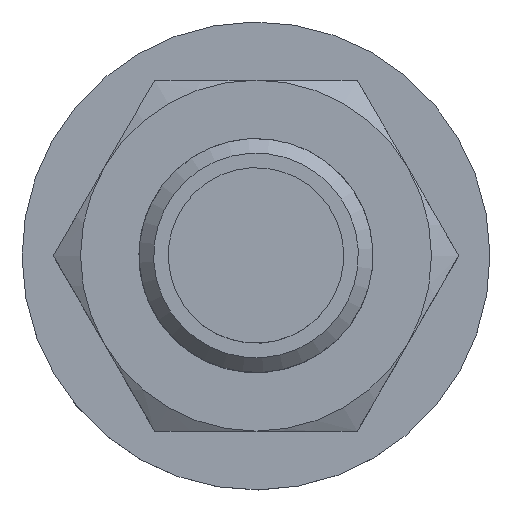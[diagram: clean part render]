
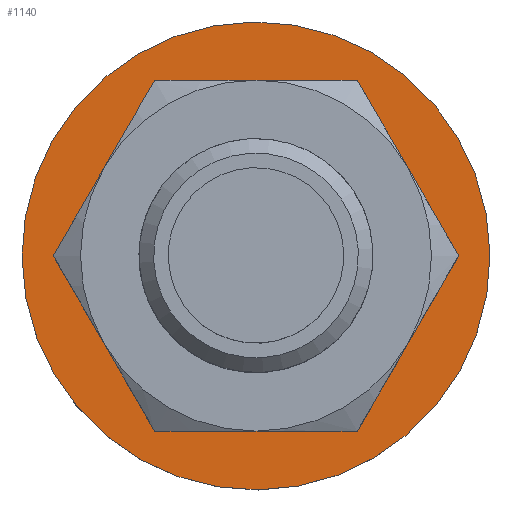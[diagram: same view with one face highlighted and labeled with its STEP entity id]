
A CAD part, top view. The second image highlights one B-rep face of the part: STEP entity #1140.
In plain terms, the highlighted planar face has unit normal (0, 0, 1).
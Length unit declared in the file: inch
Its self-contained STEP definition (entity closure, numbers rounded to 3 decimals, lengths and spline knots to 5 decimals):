
#184=FACE_BOUND('',#295,.T.);
#215=FACE_OUTER_BOUND('',#294,.T.);
#294=EDGE_LOOP('',(#717));
#295=EDGE_LOOP('',(#718,#719,#720,#721,#722,#723));
#404=CIRCLE('',#1222,0.5);
#405=CIRCLE('',#1223,0.375);
#406=CIRCLE('',#1224,0.375);
#407=CIRCLE('',#1225,0.375);
#408=CIRCLE('',#1226,0.375);
#409=CIRCLE('',#1227,0.375);
#410=CIRCLE('',#1228,0.375);
#468=VERTEX_POINT('',#1700);
#469=VERTEX_POINT('',#1702);
#470=VERTEX_POINT('',#1703);
#471=VERTEX_POINT('',#1705);
#472=VERTEX_POINT('',#1707);
#473=VERTEX_POINT('',#1709);
#474=VERTEX_POINT('',#1711);
#569=EDGE_CURVE('',#468,#468,#404,.T.);
#570=EDGE_CURVE('',#469,#470,#405,.T.);
#571=EDGE_CURVE('',#470,#471,#406,.T.);
#572=EDGE_CURVE('',#471,#472,#407,.T.);
#573=EDGE_CURVE('',#472,#473,#408,.T.);
#574=EDGE_CURVE('',#473,#474,#409,.T.);
#575=EDGE_CURVE('',#474,#469,#410,.T.);
#717=ORIENTED_EDGE('',*,*,#569,.T.);
#718=ORIENTED_EDGE('',*,*,#570,.T.);
#719=ORIENTED_EDGE('',*,*,#571,.T.);
#720=ORIENTED_EDGE('',*,*,#572,.T.);
#721=ORIENTED_EDGE('',*,*,#573,.T.);
#722=ORIENTED_EDGE('',*,*,#574,.T.);
#723=ORIENTED_EDGE('',*,*,#575,.T.);
#1021=PLANE('',#1221);
#1140=ADVANCED_FACE('',(#215,#184),#1021,.T.);
#1221=AXIS2_PLACEMENT_3D('',#1699,#1366,#1367);
#1222=AXIS2_PLACEMENT_3D('',#1701,#1368,#1369);
#1223=AXIS2_PLACEMENT_3D('',#1704,#1370,#1371);
#1224=AXIS2_PLACEMENT_3D('',#1706,#1372,#1373);
#1225=AXIS2_PLACEMENT_3D('',#1708,#1374,#1375);
#1226=AXIS2_PLACEMENT_3D('',#1710,#1376,#1377);
#1227=AXIS2_PLACEMENT_3D('',#1712,#1378,#1379);
#1228=AXIS2_PLACEMENT_3D('',#1713,#1380,#1381);
#1366=DIRECTION('center_axis',(0.,0.,
1.));
#1367=DIRECTION('ref_axis',(0.65,-0.76,0.));
#1368=DIRECTION('center_axis',(0.,0.,
1.));
#1369=DIRECTION('ref_axis',(-0.76,-0.65,0.));
#1370=DIRECTION('center_axis',(0.,0.,
-1.));
#1371=DIRECTION('ref_axis',(-0.5,-0.866,0.));
#1372=DIRECTION('center_axis',(0.,0.,
-1.));
#1373=DIRECTION('ref_axis',(-0.5,-0.866,0.));
#1374=DIRECTION('center_axis',(0.,0.,
-1.));
#1375=DIRECTION('ref_axis',(-0.5,-0.866,0.));
#1376=DIRECTION('center_axis',(0.,0.,
-1.));
#1377=DIRECTION('ref_axis',(-0.5,-0.866,0.));
#1378=DIRECTION('center_axis',(0.,0.,
-1.));
#1379=DIRECTION('ref_axis',(-0.5,-0.866,0.));
#1380=DIRECTION('center_axis',(0.,0.,
-1.));
#1381=DIRECTION('ref_axis',(-0.5,-0.866,0.));
#1699=CARTESIAN_POINT('Origin',(0.,0.,
4.813));
#1700=CARTESIAN_POINT('',(0.3801,0.32485,4.813));
#1701=CARTESIAN_POINT('Origin',(0.,0.,
4.813));
#1702=CARTESIAN_POINT('',(0.,0.375,4.813));
#1703=CARTESIAN_POINT('',(0.32476,0.1875,4.813));
#1704=CARTESIAN_POINT('Origin',(0.,0.,
4.813));
#1705=CARTESIAN_POINT('',(0.32476,-0.1875,4.813));
#1706=CARTESIAN_POINT('Origin',(0.,0.,
4.813));
#1707=CARTESIAN_POINT('',(0.,-0.375,4.813));
#1708=CARTESIAN_POINT('Origin',(0.,0.,
4.813));
#1709=CARTESIAN_POINT('',(-0.32476,-0.1875,4.813));
#1710=CARTESIAN_POINT('Origin',(0.,0.,
4.813));
#1711=CARTESIAN_POINT('',(-0.32476,0.1875,4.813));
#1712=CARTESIAN_POINT('Origin',(0.,0.,
4.813));
#1713=CARTESIAN_POINT('Origin',(0.,0.,
4.813));
